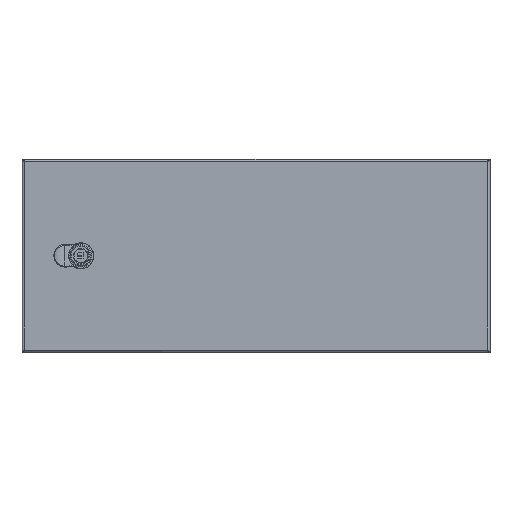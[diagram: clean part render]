
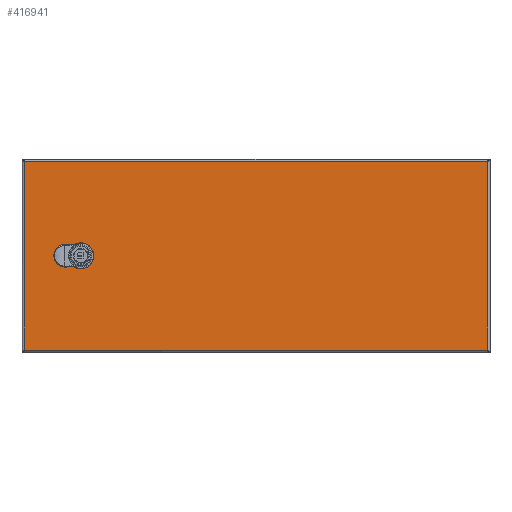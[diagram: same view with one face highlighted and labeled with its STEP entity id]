
A CAD part, top view. The second image highlights one B-rep face of the part: STEP entity #416941.
In plain terms, the highlighted planar face has unit normal (0, 0, 1).
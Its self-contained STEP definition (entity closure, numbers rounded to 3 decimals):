
#410851=CARTESIAN_POINT(' ',(289.389,122.733,179.253));
#410852=VERTEX_POINT(' ',#410851);
#411516=CARTESIAN_POINT(' ',(289.389,-116.667,179.253));
#411517=VERTEX_POINT(' ',#411516);
#412491=CARTESIAN_POINT(' ',(289.389,122.733,179.253));
#412496=DIRECTION(' ',(0.,-1.,0.));
#412501=VECTOR(' ',#412496,1.);
#412506=LINE('',#412491,#412501);
#412511=EDGE_CURVE(' ',#410852,#411517,#412506,.T.);
#414746=CARTESIAN_POINT(' ',(-299.011,-116.667,179.253));
#414747=VERTEX_POINT(' ',#414746);
#415361=CARTESIAN_POINT(' ',(-299.011,122.733,179.253));
#415362=VERTEX_POINT(' ',#415361);
#416811=DIRECTION(' ',(-0.,-0.,1.));
#416816=CARTESIAN_POINT(' ',(289.389,-116.667,179.253));
#416821=DIRECTION(' ',(0.,1.,0.));
#416826=AXIS2_PLACEMENT_3D(' ',#416816,#416811,#416821);
#416831=PLANE('NONE',#416826);
#416836=CARTESIAN_POINT(' ',(-299.011,-116.667,179.253));
#416841=DIRECTION(' ',(1.,0.,0.));
#416846=VECTOR(' ',#416841,1.);
#416851=LINE('',#416836,#416846);
#416856=EDGE_CURVE(' ',#414747,#411517,#416851,.T.);
#416861=ORIENTED_EDGE(' ',*,*,#416856,.T.);
#416866=ORIENTED_EDGE(' ',*,*,#412511,.F.);
#416871=CARTESIAN_POINT(' ',(289.389,122.733,179.253));
#416876=DIRECTION(' ',(-1.,0.,0.));
#416881=VECTOR(' ',#416876,1.);
#416886=LINE('',#416871,#416881);
#416891=EDGE_CURVE(' ',#410852,#415362,#416886,.T.);
#416896=ORIENTED_EDGE(' ',*,*,#416891,.T.);
#416901=CARTESIAN_POINT(' ',(-299.011,122.733,179.253));
#416906=DIRECTION(' ',(0.,-1.,0.));
#416911=VECTOR(' ',#416906,1.);
#416916=LINE('',#416901,#416911);
#416921=EDGE_CURVE(' ',#415362,#414747,#416916,.T.);
#416926=ORIENTED_EDGE(' ',*,*,#416921,.T.);
#416931=EDGE_LOOP(' ',(#416861,#416866,#416896,#416926));
#416936=FACE_OUTER_BOUND(' ',#416931,.T.);
#416941=ADVANCED_FACE('NONE',(#416936),#416831,.T.);
